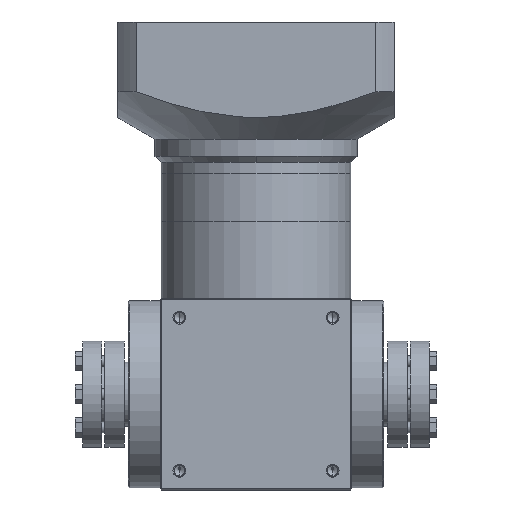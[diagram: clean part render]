
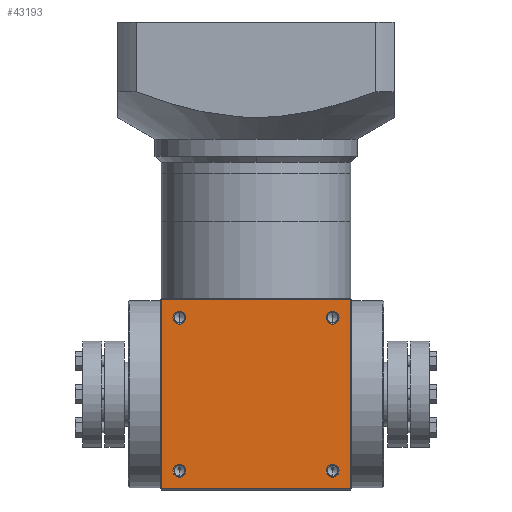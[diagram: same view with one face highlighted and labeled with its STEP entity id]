
A CAD part, front view. The second image highlights one B-rep face of the part: STEP entity #43193.
In plain terms, the highlighted planar face has unit normal (0, -1, 0).
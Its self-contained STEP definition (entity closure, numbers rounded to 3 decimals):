
#1364 = DIRECTION ( 'NONE',  ( 0., -1., 0. ) ) ;
#2064 = CARTESIAN_POINT ( 'NONE',  ( 36., -45., 77.975 ) ) ;
#2372 = ORIENTED_EDGE ( 'NONE', *, *, #23292, .F. ) ;
#2770 = CARTESIAN_POINT ( 'NONE',  ( 44.5, -45., 90. ) ) ;
#2927 = AXIS2_PLACEMENT_3D ( 'NONE', #12572, #41159, #16637 ) ;
#3357 = AXIS2_PLACEMENT_3D ( 'NONE', #44521, #19993, #48635 ) ;
#3708 = DIRECTION ( 'NONE',  ( 0., 0., -1. ) ) ;
#4091 = CIRCLE ( 'NONE', #3357, 3.025 ) ;
#4380 = VECTOR ( 'NONE', #29984, 1000. ) ;
#4689 = CARTESIAN_POINT ( 'NONE',  ( 36., -45., 81. ) ) ;
#5938 = CIRCLE ( 'NONE', #23940, 3.025 ) ;
#6347 = VERTEX_POINT ( 'NONE', #27428 ) ;
#6688 = DIRECTION ( 'NONE',  ( 0., 0., -1. ) ) ;
#6727 = VERTEX_POINT ( 'NONE', #18975 ) ;
#6762 = ORIENTED_EDGE ( 'NONE', *, *, #41102, .F. ) ;
#7926 = VERTEX_POINT ( 'NONE', #44596 ) ;
#8164 = LINE ( 'NONE', #2770, #18904 ) ;
#8624 = EDGE_CURVE ( 'NONE', #16557, #6347, #4091, .T. ) ;
#8752 = DIRECTION ( 'NONE',  ( 0., 0., -1. ) ) ;
#9949 = EDGE_CURVE ( 'NONE', #34250, #20505, #22124, .T. ) ;
#10040 = PLANE ( 'NONE',  #20578 ) ;
#10442 = VERTEX_POINT ( 'NONE', #50585 ) ;
#10509 = EDGE_LOOP ( 'NONE', ( #46799, #46330, #45155, #40694 ) ) ;
#10540 = DIRECTION ( 'NONE',  ( 0., -1., 0. ) ) ;
#12145 = AXIS2_PLACEMENT_3D ( 'NONE', #38900, #14433, #43035 ) ;
#12572 = CARTESIAN_POINT ( 'NONE',  ( -36., -45., 81. ) ) ;
#12720 = ORIENTED_EDGE ( 'NONE', *, *, #52755, .F. ) ;
#13019 = LINE ( 'NONE', #43383, #44351 ) ;
#13403 = VERTEX_POINT ( 'NONE', #2064 ) ;
#13599 = CARTESIAN_POINT ( 'NONE',  ( -44.5, -45., 89.5 ) ) ;
#13975 = CARTESIAN_POINT ( 'NONE',  ( -36., -45., 81. ) ) ;
#14377 = DIRECTION ( 'NONE',  ( -1., 0., 0. ) ) ;
#14433 = DIRECTION ( 'NONE',  ( 0., -1., 0. ) ) ;
#14456 = VERTEX_POINT ( 'NONE', #13599 ) ;
#14695 = EDGE_CURVE ( 'NONE', #17119, #6727, #5938, .T. ) ;
#14938 = CARTESIAN_POINT ( 'NONE',  ( 44.5, -45., 0.5 ) ) ;
#15110 = LINE ( 'NONE', #46256, #4380 ) ;
#16189 = FACE_BOUND ( 'NONE', #44185, .T. ) ;
#16557 = VERTEX_POINT ( 'NONE', #27926 ) ;
#16637 = DIRECTION ( 'NONE',  ( 0., 0., -1. ) ) ;
#17119 = VERTEX_POINT ( 'NONE', #30269 ) ;
#18044 = DIRECTION ( 'NONE',  ( 0., 0., -1. ) ) ;
#18162 = DIRECTION ( 'NONE',  ( 0., 1., 0. ) ) ;
#18429 = CIRCLE ( 'NONE', #49354, 3.025 ) ;
#18876 = DIRECTION ( 'NONE',  ( 1., 0., 0. ) ) ;
#18904 = VECTOR ( 'NONE', #6688, 1000. ) ;
#18975 = CARTESIAN_POINT ( 'NONE',  ( -36., -45., 5.975 ) ) ;
#19993 = DIRECTION ( 'NONE',  ( 0., -1., 0. ) ) ;
#20505 = VERTEX_POINT ( 'NONE', #41625 ) ;
#20578 = AXIS2_PLACEMENT_3D ( 'NONE', #50718, #18162, #46764 ) ;
#22124 = LINE ( 'NONE', #38844, #43901 ) ;
#22242 = AXIS2_PLACEMENT_3D ( 'NONE', #25666, #1364, #29817 ) ;
#23179 = ORIENTED_EDGE ( 'NONE', *, *, #8624, .F. ) ;
#23292 = EDGE_CURVE ( 'NONE', #41564, #13403, #37049, .T. ) ;
#23363 = ORIENTED_EDGE ( 'NONE', *, *, #52567, .F. ) ;
#23940 = AXIS2_PLACEMENT_3D ( 'NONE', #52519, #28041, #3708 ) ;
#23982 = ORIENTED_EDGE ( 'NONE', *, *, #46249, .F. ) ;
#25012 = EDGE_LOOP ( 'NONE', ( #23363, #12720 ) ) ;
#25406 = EDGE_CURVE ( 'NONE', #20505, #14456, #15110, .T. ) ;
#25666 = CARTESIAN_POINT ( 'NONE',  ( 36., -45., 9. ) ) ;
#25755 = FACE_OUTER_BOUND ( 'NONE', #10509, .T. ) ;
#27340 = VERTEX_POINT ( 'NONE', #28283 ) ;
#27428 = CARTESIAN_POINT ( 'NONE',  ( 36., -45., 12.025 ) ) ;
#27893 = CIRCLE ( 'NONE', #22242, 3.025 ) ;
#27926 = CARTESIAN_POINT ( 'NONE',  ( 36., -45., 5.975 ) ) ;
#28041 = DIRECTION ( 'NONE',  ( 0., -1., 0. ) ) ;
#28283 = CARTESIAN_POINT ( 'NONE',  ( -36., -45., 84.025 ) ) ;
#29817 = DIRECTION ( 'NONE',  ( 0., 0., -1. ) ) ;
#29984 = DIRECTION ( 'NONE',  ( 0., 0., 1. ) ) ;
#30269 = CARTESIAN_POINT ( 'NONE',  ( -36., -45., 12.025 ) ) ;
#30400 = EDGE_LOOP ( 'NONE', ( #23179, #6762 ) ) ;
#32091 = EDGE_LOOP ( 'NONE', ( #23982, #41330 ) ) ;
#32630 = CIRCLE ( 'NONE', #44347, 3.025 ) ;
#33002 = CARTESIAN_POINT ( 'NONE',  ( 36., -45., 84.025 ) ) ;
#33180 = DIRECTION ( 'NONE',  ( 0., -1., 0. ) ) ;
#34201 = EDGE_CURVE ( 'NONE', #14456, #7926, #13019, .T. ) ;
#34250 = VERTEX_POINT ( 'NONE', #14938 ) ;
#34439 = EDGE_CURVE ( 'NONE', #13403, #41564, #36650, .T. ) ;
#35000 = CARTESIAN_POINT ( 'NONE',  ( -36., -45., 9. ) ) ;
#36650 = CIRCLE ( 'NONE', #47735, 3.025 ) ;
#36665 = FACE_BOUND ( 'NONE', #32091, .T. ) ;
#37049 = CIRCLE ( 'NONE', #12145, 3.025 ) ;
#37942 = FACE_BOUND ( 'NONE', #30400, .T. ) ;
#38844 = CARTESIAN_POINT ( 'NONE',  ( -45., -45., 0.5 ) ) ;
#38900 = CARTESIAN_POINT ( 'NONE',  ( 36., -45., 81. ) ) ;
#39065 = DIRECTION ( 'NONE',  ( 0., 0., -1. ) ) ;
#40694 = ORIENTED_EDGE ( 'NONE', *, *, #25406, .F. ) ;
#41102 = EDGE_CURVE ( 'NONE', #6347, #16557, #27893, .T. ) ;
#41159 = DIRECTION ( 'NONE',  ( 0., -1., 0. ) ) ;
#41330 = ORIENTED_EDGE ( 'NONE', *, *, #14695, .F. ) ;
#41382 = EDGE_CURVE ( 'NONE', #7926, #34250, #8164, .T. ) ;
#41564 = VERTEX_POINT ( 'NONE', #33002 ) ;
#41625 = CARTESIAN_POINT ( 'NONE',  ( -44.5, -45., 0.5 ) ) ;
#42574 = DIRECTION ( 'NONE',  ( 0., -1., 0. ) ) ;
#43035 = DIRECTION ( 'NONE',  ( 0., 0., -1. ) ) ;
#43193 = ADVANCED_FACE ( 'NONE', ( #16189, #47530, #37942, #36665, #25755 ), #10040, .F. ) ;
#43383 = CARTESIAN_POINT ( 'NONE',  ( -45., -45., 89.5 ) ) ;
#43901 = VECTOR ( 'NONE', #14377, 1000. ) ;
#44185 = EDGE_LOOP ( 'NONE', ( #45082, #2372 ) ) ;
#44347 = AXIS2_PLACEMENT_3D ( 'NONE', #35000, #10540, #39065 ) ;
#44351 = VECTOR ( 'NONE', #18876, 1000. ) ;
#44521 = CARTESIAN_POINT ( 'NONE',  ( 36., -45., 9. ) ) ;
#44596 = CARTESIAN_POINT ( 'NONE',  ( 44.5, -45., 89.5 ) ) ;
#45082 = ORIENTED_EDGE ( 'NONE', *, *, #34439, .F. ) ;
#45155 = ORIENTED_EDGE ( 'NONE', *, *, #34201, .F. ) ;
#46249 = EDGE_CURVE ( 'NONE', #6727, #17119, #32630, .T. ) ;
#46256 = CARTESIAN_POINT ( 'NONE',  ( -44.5, -45., 90. ) ) ;
#46330 = ORIENTED_EDGE ( 'NONE', *, *, #41382, .F. ) ;
#46600 = CIRCLE ( 'NONE', #2927, 3.025 ) ;
#46764 = DIRECTION ( 'NONE',  ( 0., 0., 1. ) ) ;
#46799 = ORIENTED_EDGE ( 'NONE', *, *, #9949, .F. ) ;
#47530 = FACE_BOUND ( 'NONE', #25012, .T. ) ;
#47735 = AXIS2_PLACEMENT_3D ( 'NONE', #4689, #33180, #8752 ) ;
#48635 = DIRECTION ( 'NONE',  ( 0., 0., -1. ) ) ;
#49354 = AXIS2_PLACEMENT_3D ( 'NONE', #13975, #42574, #18044 ) ;
#50585 = CARTESIAN_POINT ( 'NONE',  ( -36., -45., 77.975 ) ) ;
#50718 = CARTESIAN_POINT ( 'NONE',  ( -45., -45., 90. ) ) ;
#52519 = CARTESIAN_POINT ( 'NONE',  ( -36., -45., 9. ) ) ;
#52567 = EDGE_CURVE ( 'NONE', #10442, #27340, #46600, .T. ) ;
#52755 = EDGE_CURVE ( 'NONE', #27340, #10442, #18429, .T. ) ;
